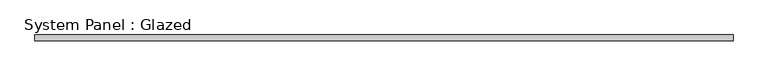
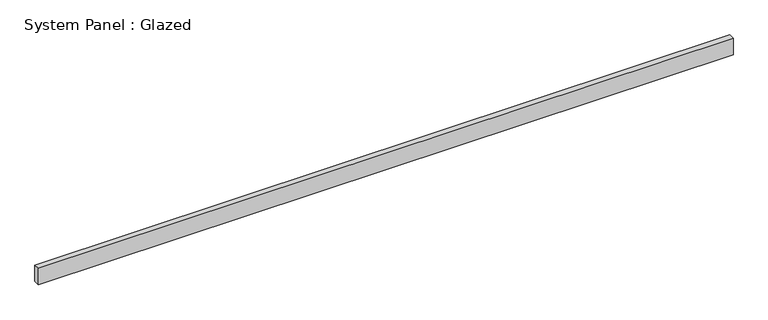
"""IFC4 building model written with IfcOpenShell, lengths in millimetres: plate geometry, System Panel : Glazed."""

from ifc_helpers import new_model, si_unit, origin, origin_with_axes, place, context, project, spatial, polyline, outline, extrude, source, transform, mapped, element, save


def system_panel_glazed_40d7866d(model_context):
    return source(origin(), model_context, "Body", "SweptSolid", [
        extrude(outline(polyline([(1524.0, 19.05), (-1524.0, 19.05), (-1524.0, 44.45), (1524.0, 44.45), (1524.0, 19.05)])), origin_with_axes(), (0.0, 0.0, 1.0), 75.8898546),
    ])


if __name__ == "__main__":
    model = new_model("IFC4")
    model_context = context("Model", 3, world=origin())
    ifc_project = project(units=[si_unit("LENGTHUNIT", "METRE", prefix="MILLI")], contexts=[model_context])
    site = spatial("IfcSite", under=ifc_project)
    building = spatial("IfcBuilding", under=site)
    placement = place(None, origin())
    system_panel_glazed_shape = system_panel_glazed_40d7866d(model_context)
    element("IfcPlate", 1, ObjectType="System Panel : Glazed", at=placement, inside=building, context=model_context, shape_type="MappedRepresentation", body=[
        mapped(system_panel_glazed_shape, transform((0.0, 0.0, 0.0), x_axis=(1.0, 0.0, 0.0), y_axis=(0.0, 1.0, 0.0), z_axis=(0.0, 0.0, 1.0))),
    ])
    save(model, "model.ifc")
